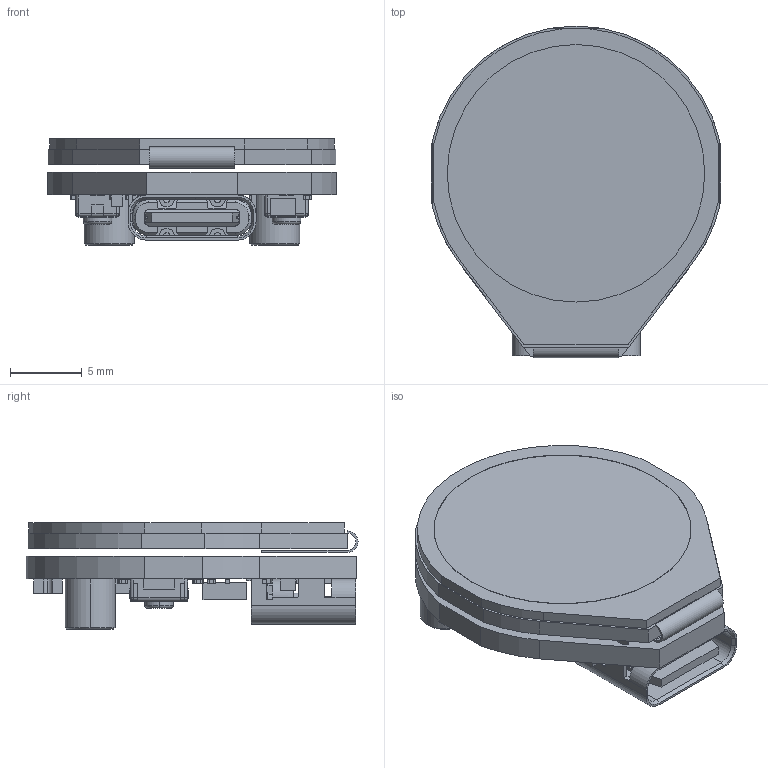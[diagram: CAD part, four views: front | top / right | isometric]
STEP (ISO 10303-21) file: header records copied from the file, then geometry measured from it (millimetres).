
FILE_DESCRIPTION((''),'2;1');
FILE_NAME('ESP32-C3-LCD-0_71_ASM','2026-05-25T10:25:44',('ag'),(''),'CREO PARAMETRIC BY PTC INC, 2021063','CREO PARAMETRIC BY PTC INC, 2021063','');
FILE_SCHEMA(('CONFIG_CONTROL_DESIGN','SHAPE_APPEARANCE_LAYERS_GROUPS'));
Length unit declared in the file: millimetre
Products named in the file (33): BOARD; USER_LIBRARY-CHIP_CAP_MLCC_0201; C__ASM; C18_ASM; C3_ASM; C4_ASM; EXTRUDED-9567; 1112332128_ASM; CAT1_ASM; C15_ASM; C10_ASM; C13_ASM; C1_ASM; C6_ASM; C12_ASM; C9_ASM; C8_ASM; C2_ASM; C11_ASM; EXTRUDED-10242; 1112331872_ASM; L1_ASM; C19_ASM; C5_ASM; C7_ASM; C20_ASM; TYPE-C_16PIN-9X3X7_3; M2X3_5X3_5-2X1_20001; ANT-SMD_0001; SMT_TACTILE_SWITCH_PTS-820; PCB_ASM; 0_71-LCD; ESP32-C3-LCD-0_71_ASM
Assembly tree (51 placements, depth 5):
  ESP32-C3-LCD-0_71_ASM
    PCB_ASM
      BOARD
      C__ASM
        USER_LIBRARY-CHIP_CAP_MLCC_0201
      C18_ASM
        USER_LIBRARY-CHIP_CAP_MLCC_0201
      C3_ASM
        USER_LIBRARY-CHIP_CAP_MLCC_0201
      C4_ASM
        USER_LIBRARY-CHIP_CAP_MLCC_0201
      CAT1_ASM
        1112332128_ASM
          EXTRUDED-9567
      C15_ASM
        USER_LIBRARY-CHIP_CAP_MLCC_0201
      C10_ASM
        USER_LIBRARY-CHIP_CAP_MLCC_0201
      C13_ASM
        USER_LIBRARY-CHIP_CAP_MLCC_0201
      C1_ASM
        USER_LIBRARY-CHIP_CAP_MLCC_0201
      C6_ASM
        USER_LIBRARY-CHIP_CAP_MLCC_0201
      C12_ASM
        USER_LIBRARY-CHIP_CAP_MLCC_0201
      C9_ASM
        USER_LIBRARY-CHIP_CAP_MLCC_0201
      C8_ASM
        USER_LIBRARY-CHIP_CAP_MLCC_0201
      C2_ASM
        USER_LIBRARY-CHIP_CAP_MLCC_0201
      C11_ASM
        USER_LIBRARY-CHIP_CAP_MLCC_0201
      L1_ASM
        1112331872_ASM
          EXTRUDED-10242
      C19_ASM
        USER_LIBRARY-CHIP_CAP_MLCC_0201
      C5_ASM
        USER_LIBRARY-CHIP_CAP_MLCC_0201
      C7_ASM
        USER_LIBRARY-CHIP_CAP_MLCC_0201
      C20_ASM
        USER_LIBRARY-CHIP_CAP_MLCC_0201
      TYPE-C_16PIN-9X3X7_3
      M2X3_5X3_5-2X1_20001  x2
      ANT-SMD_0001
      SMT_TACTILE_SWITCH_PTS-820  x2
    0_71-LCD
Bounding box: 20.2 x 23.2 x 7.41 mm (x, y, z)
Volume: 1441.8 mm3; surface area: 2653.1 mm2
Topology: 29 solids, 30 shells, 2064 faces, 5411 edges, 3281 vertices
Faces by surface type: plane 1130, cylinder 631, sphere 160, extrusion 94, cone 25, bspline 20, torus 4
Entity records: 52422 total; most frequent: CARTESIAN_POINT 9319, ORIENTED_EDGE 6442, DIRECTION 5880, PRESENTATION_STYLE_ASSIGNMENT 3686, STYLED_ITEM 3325, CURVE_STYLE 3315, EDGE_CURVE 3221, VECTOR 2522
